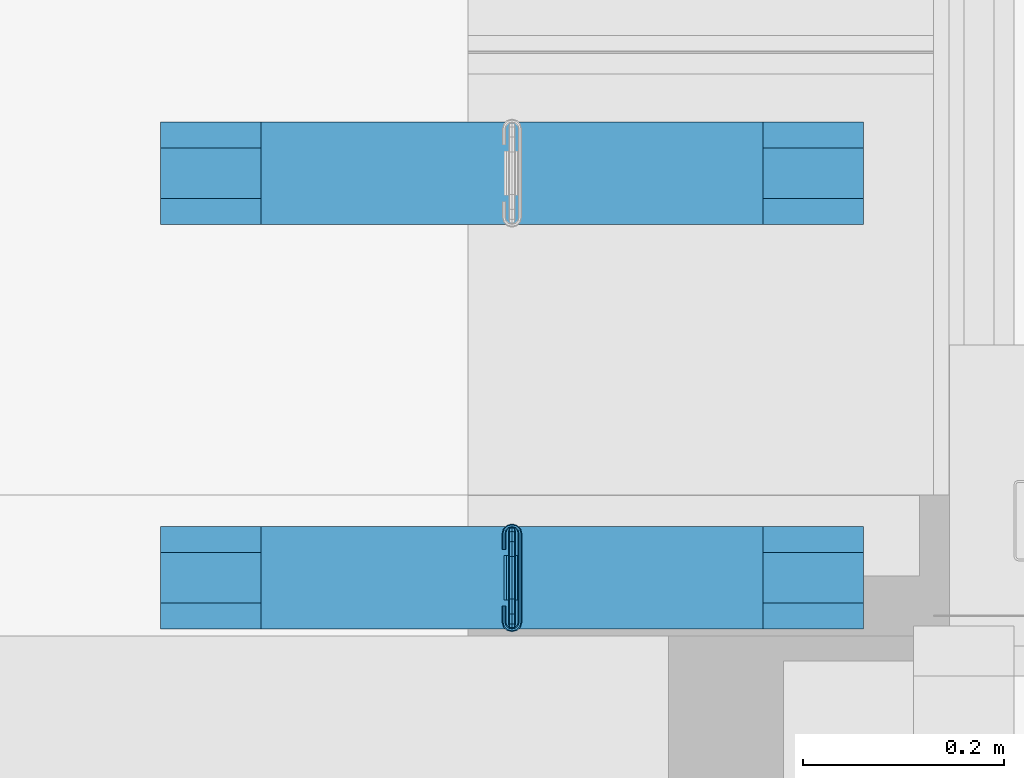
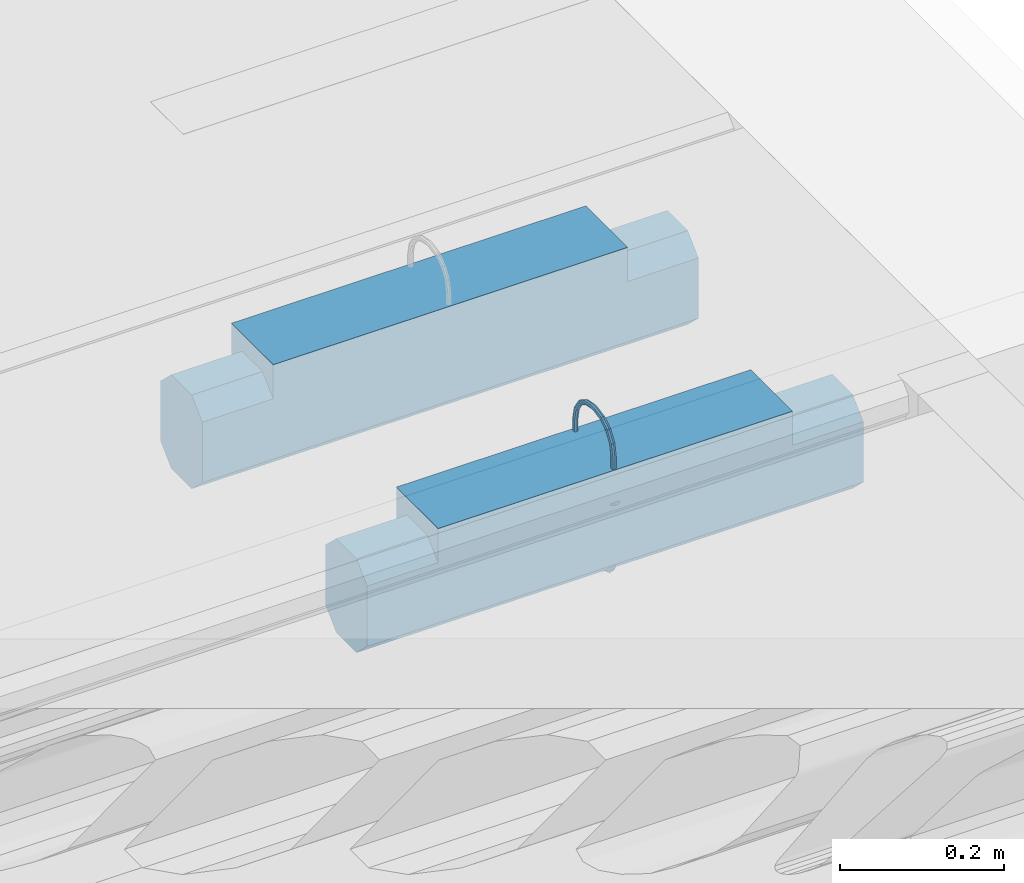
# One storey, part 187 of 230: 3 beams.
"""IFC4X3_ADD2 building model written with IfcOpenShell, lengths in millimetres."""

from ifc_helpers import new_model, si_unit, direction, origin_with_axes, place, context, subcontext, project, spatial, triangles, polygons, element, save


model = new_model("IFC4X3_ADD2")

# Units and contexts
model_context = context("Model", 3, precision=1e-05, world=origin_with_axes(), true_north=direction((0.0, 1.0)))
body_context = subcontext(model_context, "Body", "Model", "MODEL_VIEW")
ifc_project = project(units=[si_unit("LENGTHUNIT", "METRE", prefix="MILLI"), si_unit("AREAUNIT", "SQUARE_METRE"), si_unit("VOLUMEUNIT", "CUBIC_METRE"), si_unit("PLANEANGLEUNIT", "RADIAN"), si_unit("TIMEUNIT", "SECOND"), si_unit("MASSUNIT", "GRAM")], contexts=[model_context])

# Site, building, storey
site_placement = place(None, origin_with_axes())
site = spatial("IfcSite", under=ifc_project, at=site_placement, Name="Site", CompositionType="ELEMENT")
building_placement = place(site_placement, origin_with_axes())
building = spatial("IfcBuilding", under=site, at=building_placement, Name="IFC Building Story")
storey_placement = place(building_placement, origin_with_axes())
storey = spatial("IfcBuildingStorey", under=building, at=storey_placement, Name="ETAGE 00 (0)", Elevation=0.0)

# Beams
beam_1_placement = place(storey_placement, origin_with_axes())
element("IfcBeam", 1, at=beam_1_placement, inside=storey, Name="ES44", ObjectType="500*102", context=body_context, shape_type="Tessellation", body=[
    polygons([(47445.689, 509.0000185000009, 4199.9999879), (47445.689, 407.000018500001, 4199.9999879), (47945.689, 407.000018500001, 4199.9999879), (47945.689, 509.0000185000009, 4199.9999879), (47445.689, 509.0000185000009, 4148.9999909), (47445.689, 483.000018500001, 4173.9999909), (47445.689, 433.0000185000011, 4173.9999909), (47445.689, 407.000018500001, 4148.9999909), (47345.689, 407.000018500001, 4148.9999909), (47345.689, 407.000018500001, 4058.999990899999), (48045.689, 407.000018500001, 4058.999990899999), (48045.689, 407.000018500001, 4148.9999909), (47945.689, 407.000018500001, 4148.9999909), (47945.689, 433.000018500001, 4173.9999909), (47945.689, 483.0000185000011, 4173.9999909), (47945.689, 509.0000185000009, 4148.9999909), (48045.689, 509.0000185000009, 4148.9999909), (48045.689, 509.0000185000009, 4058.999990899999), (47345.689, 509.0000185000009, 4058.999990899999), (47345.689, 509.0000185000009, 4148.9999909), (47345.689, 483.000018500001, 4033.9999909), (47345.689, 433.000018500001, 4033.9999909), (47345.689, 433.000018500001, 4173.9999909), (47345.689, 483.000018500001, 4173.9999909), (48045.689, 483.000018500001, 4033.9999909), (48045.689, 483.000018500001, 4173.9999909), (48045.689, 433.000018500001, 4173.9999909), (48045.689, 433.000018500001, 4033.9999909)], [[[1, 2, 3, 4]], [[7, 8, 2]], [[2, 1, 6]], [[2, 6, 7]], [[1, 5, 6]], [[8, 9, 10]], [[13, 3, 2]], [[8, 10, 11]], [[8, 11, 13]], [[13, 2, 8]], [[11, 12, 13]], [[15, 16, 4]], [[4, 3, 14]], [[4, 14, 15]], [[3, 13, 14]], [[16, 17, 18]], [[5, 1, 4]], [[16, 18, 19]], [[16, 19, 5]], [[5, 4, 16]], [[19, 20, 5]], [[21, 22, 10]], [[21, 10, 9]], [[21, 9, 23]], [[21, 23, 24]], [[21, 24, 20]], [[21, 20, 19]], [[25, 18, 17]], [[25, 17, 26]], [[25, 26, 27]], [[25, 27, 12]], [[25, 12, 11]], [[25, 11, 28]], [[22, 21, 25, 28]], [[10, 22, 28, 11]], [[23, 9, 8, 7]], [[24, 23, 7, 6]], [[20, 24, 6, 5]], [[21, 19, 18, 25]], [[27, 26, 15, 14]], [[12, 27, 14, 13]], [[26, 17, 16, 15]]]),
])
beam_2_placement = place(storey_placement, origin_with_axes())
element("IfcBeam", 2, at=beam_2_placement, inside=storey, Name="LU2", ObjectType="D7", context=body_context, shape_type="Tessellation", body=[
    triangles([(47698.16297607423, 483.5000298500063, 4036.025157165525), (47698.16297607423, 480.0000254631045, 4036.025157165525), (47695.68870849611, 483.5000298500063, 4034.999929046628), (47695.68870849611, 480.0000254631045, 4034.999929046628), (47699.19082031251, 483.5000298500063, 4038.500006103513), (47699.19082031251, 480.0000254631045, 4038.500006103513), (47698.16297607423, 480.0000254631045, 4040.974855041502), (47698.16297607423, 483.5000298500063, 4040.974855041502), (47695.68870849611, 480.0000254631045, 4042.000083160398), (47695.68870849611, 483.5000298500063, 4042.000083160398), (47693.21444091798, 480.0000254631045, 4040.974855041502), (47693.21444091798, 483.5000298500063, 4040.974855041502), (47692.1912475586, 480.0000254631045, 4038.500006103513), (47692.1912475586, 483.5000298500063, 4038.500006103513), (47693.21444091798, 483.5000298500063, 4036.025157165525), (47693.21444091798, 480.0000254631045, 4036.025157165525), (47695.68870849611, 495.7500088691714, 4038.282286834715), (47693.21444091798, 495.2374674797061, 4039.170023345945), (47695.68870849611, 504.71763010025, 4047.250053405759), (47693.21444091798, 503.8298572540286, 4047.762522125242), (47698.16297607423, 503.8298572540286, 4047.762522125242), (47698.16297607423, 495.2374674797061, 4039.170023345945), (47699.19082031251, 501.6865651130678, 4048.999946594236), (47699.19082031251, 494.0000066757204, 4041.313497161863), (47698.16297607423, 492.7625822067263, 4043.456680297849), (47698.16297607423, 499.5432366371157, 4050.237371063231), (47695.68870849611, 492.2500044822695, 4044.34441680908), (47695.68870849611, 498.6554637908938, 4050.750130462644), (47693.21444091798, 499.5432366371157, 4050.237371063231), (47693.21444091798, 492.7625822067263, 4043.456680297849), (47692.1912475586, 501.6865651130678, 4048.999946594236), (47692.1912475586, 494.0000066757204, 4041.313497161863), (47693.21444091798, 506.974905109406, 4059.499887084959), (47692.1912475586, 504.500019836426, 4059.499887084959), (47695.68870849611, 508.000024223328, 4059.499887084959), (47698.16297607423, 506.974905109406, 4059.499887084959), (47699.19082031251, 504.500019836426, 4059.499887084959), (47698.16297607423, 502.0251345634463, 4059.499887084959), (47695.68870849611, 501.0000154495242, 4059.499887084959), (47693.21444091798, 502.0251345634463, 4059.499887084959), (47693.21444091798, 502.0251345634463, 4218.50006561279), (47692.1912475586, 504.500019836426, 4218.50006561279), (47693.21444091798, 498.9403664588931, 4234.008421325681), (47692.1912475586, 501.2268548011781, 4234.955456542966), (47693.21444091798, 490.1556192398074, 4247.155583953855), (47692.1912475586, 491.9056214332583, 4248.905477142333), (47693.21444091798, 493.6556236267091, 4250.65566101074), (47693.21444091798, 503.5133068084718, 4235.902491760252), (47695.68870849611, 494.3804703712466, 4251.38032608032), (47695.68870849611, 504.46041469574, 4236.294909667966), (47698.16297607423, 493.6556236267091, 4250.65566101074), (47698.16297607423, 503.5133068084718, 4235.902491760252), (47699.19082031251, 491.9056214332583, 4248.905477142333), (47699.19082031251, 501.2268548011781, 4234.955456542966), (47698.16297607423, 498.9403664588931, 4234.008421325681), (47698.16297607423, 490.1556192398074, 4247.155583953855), (47695.68870849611, 497.993258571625, 4233.616003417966), (47695.68870849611, 489.4307361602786, 4246.430628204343), (47695.68870849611, 476.6160023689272, 4254.993186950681), (47693.21444091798, 477.0083112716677, 4255.940222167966), (47692.1912475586, 477.9554191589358, 4258.226710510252), (47693.21444091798, 478.9024907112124, 4260.513198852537), (47695.68870849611, 479.2947996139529, 4261.460524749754), (47698.16297607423, 478.9024907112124, 4260.513198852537), (47699.19082031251, 477.9554191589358, 4258.226710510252), (47698.16297607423, 477.0083112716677, 4255.940222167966), (47698.16297607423, 461.50002822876, 4259.025208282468), (47695.68870849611, 461.50002822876, 4257.999980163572), (47693.21444091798, 461.50002822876, 4259.025208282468), (47692.1912475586, 461.50002822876, 4261.500057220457), (47693.21444091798, 461.50002822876, 4263.974906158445), (47695.68870849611, 461.50002822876, 4265.000134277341), (47698.16297607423, 461.50002822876, 4263.974906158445), (47699.19082031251, 461.50002822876, 4261.500057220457), (47699.19082031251, 454.5000194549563, 4261.500057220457), (47698.16297607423, 454.5000194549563, 4259.025208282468), (47699.19082031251, 438.0446285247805, 4258.226710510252), (47698.16297607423, 438.9917364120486, 4255.940222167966), (47699.19082031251, 424.094426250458, 4248.905477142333), (47698.16297607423, 425.8444284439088, 4247.155583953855), (47695.68870849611, 439.3840089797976, 4254.993186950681), (47695.68870849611, 426.5693115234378, 4246.430628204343), (47693.21444091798, 425.8444284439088, 4247.155583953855), (47693.21444091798, 438.9917364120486, 4255.940222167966), (47692.1912475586, 424.094426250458, 4248.905477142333), (47692.1912475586, 438.0446285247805, 4258.226710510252), (47693.21444091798, 422.344424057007, 4250.65566101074), (47693.21444091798, 437.0975206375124, 4260.513198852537), (47695.68870849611, 421.6195409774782, 4251.38032608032), (47695.68870849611, 436.7052480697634, 4261.460524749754), (47698.16297607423, 422.344424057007, 4250.65566101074), (47698.16297607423, 437.0975206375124, 4260.513198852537), (47699.19082031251, 414.7731928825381, 4234.955456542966), (47698.16297607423, 412.486704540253, 4235.902491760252), (47698.16297607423, 417.0596812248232, 4234.008421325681), (47695.68870849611, 418.0067891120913, 4233.616003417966), (47693.21444091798, 417.0596812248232, 4234.008421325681), (47692.1912475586, 414.7731928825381, 4234.955456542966), (47693.21444091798, 412.486704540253, 4235.902491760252), (47695.68870849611, 411.5396329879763, 4236.294909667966), (47698.16297607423, 409.0251425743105, 4218.50006561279), (47695.68870849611, 408.0000234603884, 4218.50006561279), (47699.19082031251, 411.5000278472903, 4218.50006561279), (47698.16297607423, 413.9748767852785, 4218.50006561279), (47695.68870849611, 415.0000322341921, 4218.50006561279), (47693.21444091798, 413.9748767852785, 4218.50006561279), (47692.1912475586, 411.5000278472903, 4218.50006561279), (47693.21444091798, 409.0251425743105, 4218.50006561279), (47695.68870849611, 408.0000234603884, 4059.499887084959), (47693.21444091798, 409.0251425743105, 4059.499887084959), (47695.68870849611, 411.2823812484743, 4047.250053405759), (47693.21444091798, 412.1701904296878, 4047.762522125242), (47695.68870849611, 420.2500024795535, 4038.282286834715), (47693.21444091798, 420.7625802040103, 4039.170023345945), (47698.16297607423, 420.7625802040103, 4039.170023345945), (47698.16297607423, 412.1701904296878, 4047.762522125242), (47699.19082031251, 422.0000046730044, 4041.313497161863), (47699.19082031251, 414.3134825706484, 4048.999946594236), (47698.16297607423, 416.4567747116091, 4050.237371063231), (47698.16297607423, 423.2374654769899, 4043.456680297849), (47695.68870849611, 417.3445838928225, 4050.750130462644), (47695.68870849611, 423.7500068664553, 4044.34441680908), (47693.21444091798, 423.2374654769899, 4043.456680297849), (47693.21444091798, 416.4567747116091, 4050.237371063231), (47692.1912475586, 422.0000046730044, 4041.313497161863), (47692.1912475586, 414.3134825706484, 4048.999946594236), (47693.21444091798, 432.50001783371, 4036.025157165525), (47692.1912475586, 432.50001783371, 4038.500006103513), (47695.68870849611, 432.50001783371, 4034.999929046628), (47698.16297607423, 432.50001783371, 4036.025157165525), (47699.19082031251, 432.50001783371, 4038.500006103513), (47698.16297607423, 432.50001783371, 4040.974855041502), (47695.68870849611, 432.50001783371, 4042.000083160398), (47693.21444091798, 432.50001783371, 4040.974855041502), (47693.21444091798, 436.0000222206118, 4040.974855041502), (47692.1912475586, 436.0000222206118, 4038.500006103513), (47695.68870849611, 436.0000222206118, 4042.000083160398), (47698.16297607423, 436.0000222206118, 4040.974855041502), (47699.19082031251, 436.0000222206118, 4038.500006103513), (47698.16297607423, 436.0000222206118, 4036.025157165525), (47695.68870849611, 436.0000222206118, 4034.999929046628), (47693.21444091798, 436.0000222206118, 4036.025157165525), (47703.68822021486, 436.0000222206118, 4038.500006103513), (47695.68870849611, 436.0000222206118, 4046.500099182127), (47690.03323974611, 436.0000222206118, 4044.156928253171), (47687.68919677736, 436.0000222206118, 4038.500006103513), (47701.34417724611, 436.0000222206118, 4044.156928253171), (47690.03323974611, 436.0000222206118, 4032.843083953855), (47695.68870849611, 436.0000222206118, 4030.4999130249), (47701.34417724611, 436.0000222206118, 4032.843083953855), (47701.34417724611, 480.0000254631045, 4032.843083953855), (47695.68870849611, 480.0000254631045, 4030.4999130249), (47703.68822021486, 480.0000254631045, 4038.500006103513), (47701.34417724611, 480.0000254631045, 4044.156928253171), (47695.68870849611, 480.0000254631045, 4046.500099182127), (47690.03323974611, 480.0000254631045, 4044.156928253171), (47687.68919677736, 480.0000254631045, 4038.500006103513), (47690.03323974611, 480.0000254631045, 4032.843083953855), (47692.1912475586, 411.5000278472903, 4059.499887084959), (47693.21444091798, 413.9748767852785, 4059.499887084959), (47695.68870849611, 415.0000322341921, 4059.499887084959), (47698.16297607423, 413.9748767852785, 4059.499887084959), (47699.19082031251, 411.5000278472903, 4059.499887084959), (47698.16297607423, 409.0251425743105, 4059.499887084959), (47698.16297607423, 454.5000194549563, 4263.974906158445), (47695.68870849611, 454.5000194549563, 4265.000134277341), (47693.21444091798, 454.5000194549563, 4263.974906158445), (47692.1912475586, 454.5000194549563, 4261.500057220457), (47693.21444091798, 454.5000194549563, 4259.025208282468), (47695.68870849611, 454.5000194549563, 4257.999980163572), (47695.68870849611, 501.0000154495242, 4218.50006561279), (47698.16297607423, 502.0251345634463, 4218.50006561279), (47699.19082031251, 504.500019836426, 4218.50006561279), (47698.16297607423, 506.974905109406, 4218.50006561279), (47695.68870849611, 508.000024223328, 4218.50006561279), (47693.21444091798, 506.974905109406, 4218.50006561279), (47689.58675537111, 502.0600161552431, 4149.999886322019), (47689.58675537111, 486.0000226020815, 4149.999886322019), (47688.63797607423, 502.0600161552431, 4148.354637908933), (47688.63797607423, 486.0000226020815, 4148.354637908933), (47690.38670654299, 505.03000202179, 4149.999886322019), (47689.56350097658, 505.505009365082, 4148.354637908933), (47692.08427734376, 508.026948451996, 4148.354637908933), (47692.5586669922, 507.2042152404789, 4149.999886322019), (47692.08427734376, 508.026948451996, 4151.645425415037), (47689.56350097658, 505.505009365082, 4151.645425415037), (47695.5305786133, 508.950002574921, 4151.645425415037), (47695.5305786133, 510.85003194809, 4151.645425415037), (47691.13549804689, 509.6723785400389, 4151.645425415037), (47686.74041748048, 413.9400315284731, 4151.645425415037), (47689.56350097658, 410.4950019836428, 4151.645425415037), (47688.63797607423, 413.9400315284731, 4151.645425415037), (47686.74041748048, 430.0000250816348, 4151.645425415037), (47687.91708984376, 409.5450236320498, 4151.645425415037), (47688.63797607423, 430.0000250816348, 4151.645425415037), (47691.13549804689, 406.327669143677, 4151.645425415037), (47695.5305786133, 407.0500087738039, 4151.645425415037), (47692.08427734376, 407.9730992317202, 4151.645425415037), (47695.5305786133, 405.1500157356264, 4151.645425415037), (47686.74041748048, 502.0600161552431, 4151.645425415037), (47687.91708984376, 506.455024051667, 4151.645425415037), (47686.74041748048, 486.0000226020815, 4151.645425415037), (47688.63797607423, 502.0600161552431, 4151.645425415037), (47688.63797607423, 486.0000226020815, 4151.645425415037), (47699.29313964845, 407.9730992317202, 4151.645425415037), (47700.24191894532, 406.327669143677, 4151.645425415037), (47703.46032714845, 409.5450236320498, 4151.645425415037), (47695.84683837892, 405.1500157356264, 4151.645425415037), (47695.84683837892, 407.0500087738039, 4151.645425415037), (47701.81391601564, 410.4950019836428, 4151.645425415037), (47704.63699951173, 413.9400315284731, 4151.645425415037), (47702.73944091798, 413.9400315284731, 4151.645425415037), (47702.73944091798, 502.0600161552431, 4151.645425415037), (47700.24191894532, 509.6723785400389, 4151.645425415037), (47699.29313964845, 508.026948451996, 4151.645425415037), (47703.46032714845, 506.455024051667, 4151.645425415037), (47695.84683837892, 510.85003194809, 4151.645425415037), (47695.84683837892, 508.950002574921, 4151.645425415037), (47704.63699951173, 502.0600161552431, 4151.645425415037), (47701.81391601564, 505.505009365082, 4151.645425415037), (47686.74041748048, 430.0000250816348, 4148.354637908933), (47688.63797607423, 430.0000250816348, 4148.354637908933), (47689.58675537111, 430.0000250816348, 4149.999886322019), (47685.7869873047, 430.0000250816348, 4149.999886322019), (47689.58675537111, 413.9400315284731, 4149.999886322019), (47688.63797607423, 413.9400315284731, 4148.354637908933), (47691.13549804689, 406.327669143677, 4148.354637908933), (47695.5305786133, 407.0500087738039, 4148.354637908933), (47695.5305786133, 405.1500157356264, 4148.354637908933), (47686.74041748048, 502.0600161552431, 4148.354637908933), (47686.74041748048, 486.0000226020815, 4148.354637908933), (47687.91708984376, 506.455024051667, 4148.354637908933), (47691.13549804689, 509.6723785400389, 4148.354637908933), (47695.5305786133, 508.950002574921, 4148.354637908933), (47695.5305786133, 510.85003194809, 4148.354637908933), (47686.74041748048, 413.9400315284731, 4148.354637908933), (47689.56350097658, 410.4950019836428, 4148.354637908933), (47687.91708984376, 409.5450236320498, 4148.354637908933), (47692.08427734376, 407.9730992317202, 4148.354637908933), (47699.29313964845, 508.026948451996, 4148.354637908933), (47700.24191894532, 509.6723785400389, 4148.354637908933), (47703.46032714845, 506.455024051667, 4148.354637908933), (47695.84683837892, 510.85003194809, 4148.354637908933), (47695.84683837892, 508.950002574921, 4148.354637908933), (47701.81391601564, 505.505009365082, 4148.354637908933), (47704.63699951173, 502.0600161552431, 4148.354637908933), (47702.73944091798, 502.0600161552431, 4148.354637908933), (47702.73944091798, 413.9400315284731, 4148.354637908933), (47700.24191894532, 406.327669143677, 4148.354637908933), (47699.29313964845, 407.9730992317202, 4148.354637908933), (47703.46032714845, 409.5450236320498, 4148.354637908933), (47695.84683837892, 405.1500157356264, 4148.354637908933), (47695.84683837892, 407.0500087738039, 4148.354637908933), (47704.63699951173, 413.9400315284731, 4148.354637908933), (47701.81391601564, 410.4950019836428, 4148.354637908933), (47685.7869873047, 413.9400315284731, 4149.999886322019), (47687.09388427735, 409.0700162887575, 4149.999886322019), (47690.66110839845, 405.5049359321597, 4149.999886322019), (47695.5305786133, 404.200001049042, 4149.999886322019), (47695.84683837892, 404.200001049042, 4149.999886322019), (47700.72095947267, 405.5049359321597, 4149.999886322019), (47704.28353271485, 409.0700162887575, 4149.999886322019), (47705.59042968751, 413.9400315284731, 4149.999886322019), (47705.59042968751, 502.0600161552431, 4149.999886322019), (47704.28353271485, 506.930031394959, 4149.999886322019), (47700.72095947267, 510.495111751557, 4149.999886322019), (47695.84683837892, 511.800010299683, 4149.999886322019), (47695.5305786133, 511.800010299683, 4149.999886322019), (47690.66110839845, 510.495111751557, 4149.999886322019), (47687.09388427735, 506.930031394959, 4149.999886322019), (47685.7869873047, 502.0600161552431, 4149.999886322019), (47685.7869873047, 486.0000226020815, 4149.999886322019), (47695.5305786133, 508.000024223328, 4149.999886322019), (47695.84683837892, 508.000024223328, 4149.999886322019), (47698.81875000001, 507.2042152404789, 4149.999886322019), (47700.99536132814, 505.03000202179, 4149.999886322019), (47701.79066162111, 502.0600161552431, 4149.999886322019), (47701.79066162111, 413.9400315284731, 4149.999886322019), (47700.99536132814, 410.970009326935, 4149.999886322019), (47698.81875000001, 408.7958324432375, 4149.999886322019), (47695.84683837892, 408.0000234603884, 4149.999886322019), (47695.5305786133, 408.0000234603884, 4149.999886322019), (47692.5586669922, 408.7958324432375, 4149.999886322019), (47690.38670654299, 410.970009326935, 4149.999886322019)], [[1, 2, 3], [4, 3, 2], [5, 6, 1], [2, 1, 6], [6, 5, 7], [8, 7, 5], [7, 8, 9], [10, 9, 8], [9, 10, 11], [12, 11, 10], [11, 12, 13], [14, 13, 12], [15, 16, 14], [13, 14, 16], [3, 4, 15], [16, 15, 4], [17, 3, 18], [15, 18, 3], [19, 17, 20], [18, 20, 17], [21, 22, 17], [17, 19, 21], [23, 24, 22], [22, 21, 23], [24, 23, 25], [26, 25, 23], [25, 26, 27], [28, 27, 26], [27, 28, 29], [29, 30, 27], [30, 29, 31], [31, 32, 30], [20, 18, 31], [32, 31, 18], [33, 20, 34], [31, 34, 20], [35, 19, 33], [20, 33, 19], [36, 21, 19], [19, 35, 36], [37, 23, 21], [21, 36, 37], [23, 37, 26], [38, 26, 37], [26, 38, 28], [39, 28, 38], [28, 39, 40], [40, 29, 28], [29, 40, 34], [34, 31, 29], [40, 41, 42], [42, 34, 40], [41, 43, 44], [44, 42, 41], [43, 45, 46], [46, 44, 43], [47, 48, 46], [44, 46, 48], [49, 50, 47], [48, 47, 50], [51, 52, 50], [50, 49, 51], [53, 54, 52], [52, 51, 53], [54, 53, 55], [56, 55, 53], [55, 56, 57], [58, 57, 56], [57, 58, 45], [45, 43, 57], [58, 59, 60], [60, 45, 58], [45, 60, 61], [61, 46, 45], [62, 47, 61], [46, 61, 47], [63, 49, 62], [47, 62, 49], [64, 51, 49], [49, 63, 64], [65, 53, 51], [51, 64, 65], [53, 65, 56], [66, 56, 65], [56, 66, 58], [59, 58, 66], [66, 67, 59], [68, 59, 67], [59, 68, 69], [69, 60, 59], [60, 69, 70], [70, 61, 60], [71, 62, 70], [61, 70, 62], [72, 63, 71], [62, 71, 63], [73, 64, 63], [63, 72, 73], [74, 65, 64], [64, 73, 74], [65, 74, 66], [67, 66, 74], [74, 75, 67], [76, 67, 75], [75, 77, 76], [78, 76, 77], [77, 79, 78], [80, 78, 79], [78, 80, 81], [82, 81, 80], [81, 82, 83], [83, 84, 81], [84, 83, 85], [85, 86, 84], [87, 88, 85], [86, 85, 88], [89, 90, 87], [88, 87, 90], [91, 92, 90], [90, 89, 91], [79, 77, 92], [92, 91, 79], [93, 79, 91], [91, 94, 93], [79, 93, 80], [95, 80, 93], [80, 95, 82], [96, 82, 95], [82, 96, 97], [97, 83, 82], [83, 97, 98], [98, 85, 83], [99, 87, 98], [85, 98, 87], [100, 89, 99], [87, 99, 89], [94, 91, 89], [89, 100, 94], [101, 94, 100], [100, 102, 101], [103, 93, 94], [94, 101, 103], [93, 103, 95], [104, 95, 103], [95, 104, 96], [105, 96, 104], [96, 105, 106], [106, 97, 96], [97, 106, 107], [107, 98, 97], [108, 99, 107], [98, 107, 99], [102, 100, 108], [99, 108, 100], [109, 102, 110], [108, 110, 102], [111, 109, 112], [110, 112, 109], [113, 111, 114], [112, 114, 111], [115, 116, 111], [111, 113, 115], [117, 118, 116], [116, 115, 117], [118, 117, 119], [120, 119, 117], [119, 120, 121], [122, 121, 120], [121, 122, 123], [123, 124, 121], [124, 123, 125], [125, 126, 124], [114, 112, 125], [126, 125, 112], [127, 114, 128], [125, 128, 114], [129, 113, 127], [114, 127, 113], [130, 115, 113], [113, 129, 130], [131, 117, 115], [115, 130, 131], [117, 131, 120], [132, 120, 131], [120, 132, 122], [133, 122, 132], [122, 133, 134], [134, 123, 122], [123, 134, 128], [128, 125, 123], [134, 135, 136], [136, 128, 134], [133, 137, 134], [135, 134, 137], [132, 138, 137], [137, 133, 132], [131, 139, 132], [138, 132, 139], [139, 131, 130], [130, 140, 139], [140, 130, 141], [129, 141, 130], [141, 129, 127], [127, 142, 141], [142, 127, 136], [128, 136, 127], [138, 139, 143], [135, 137, 144], [144, 145, 135], [146, 136, 135], [146, 135, 145], [147, 137, 138], [137, 147, 144], [138, 143, 147], [148, 136, 146], [142, 149, 141], [142, 136, 148], [148, 149, 142], [150, 143, 139], [139, 140, 150], [141, 150, 140], [150, 141, 149], [151, 150, 152], [149, 152, 150], [153, 143, 151], [150, 151, 143], [143, 153, 147], [154, 147, 153], [147, 154, 144], [155, 144, 154], [144, 155, 145], [156, 145, 155], [145, 156, 146], [157, 146, 156], [158, 148, 157], [146, 157, 148], [152, 149, 158], [148, 158, 149], [11, 13, 157], [7, 9, 155], [155, 154, 7], [153, 6, 7], [153, 7, 154], [156, 9, 11], [9, 156, 155], [11, 157, 156], [151, 6, 153], [2, 152, 4], [2, 6, 151], [151, 152, 2], [158, 157, 13], [13, 16, 158], [4, 158, 16], [158, 4, 152], [112, 110, 126], [159, 126, 110], [160, 124, 126], [126, 159, 160], [161, 121, 124], [124, 160, 161], [162, 119, 161], [121, 161, 119], [163, 118, 162], [119, 162, 118], [118, 163, 164], [164, 116, 118], [116, 164, 109], [109, 111, 116], [164, 101, 102], [102, 109, 164], [163, 103, 164], [101, 164, 103], [103, 163, 104], [162, 104, 163], [104, 162, 105], [161, 105, 162], [105, 161, 160], [160, 106, 105], [106, 160, 159], [159, 107, 106], [110, 108, 107], [107, 159, 110], [77, 75, 165], [165, 92, 77], [92, 165, 166], [166, 90, 92], [90, 166, 88], [167, 88, 166], [88, 167, 86], [168, 86, 167], [169, 84, 86], [86, 168, 169], [170, 81, 84], [84, 169, 170], [76, 78, 170], [81, 170, 78], [67, 76, 68], [170, 68, 76], [68, 170, 169], [169, 69, 68], [69, 169, 168], [168, 70, 69], [167, 71, 70], [70, 168, 167], [166, 72, 71], [71, 167, 166], [165, 73, 166], [72, 166, 73], [75, 74, 165], [73, 165, 74], [171, 57, 43], [43, 41, 171], [172, 55, 171], [57, 171, 55], [173, 54, 172], [55, 172, 54], [54, 173, 174], [174, 52, 54], [52, 174, 175], [175, 50, 52], [50, 175, 48], [176, 48, 175], [48, 176, 44], [42, 44, 176], [176, 33, 34], [34, 42, 176], [175, 35, 176], [33, 176, 35], [174, 36, 35], [35, 175, 174], [173, 37, 174], [36, 174, 37], [37, 173, 38], [172, 38, 173], [38, 172, 39], [171, 39, 172], [39, 171, 41], [41, 40, 39], [18, 15, 32], [14, 32, 15], [12, 30, 32], [32, 14, 12], [10, 27, 30], [30, 12, 10], [8, 25, 10], [27, 10, 25], [5, 24, 8], [25, 8, 24], [24, 5, 1], [1, 22, 24], [22, 1, 3], [3, 17, 22], [177, 178, 179], [180, 179, 178], [181, 177, 179], [179, 182, 181], [183, 184, 181], [181, 182, 183], [184, 185, 181], [186, 181, 185], [187, 188, 189], [190, 191, 192], [190, 192, 193], [190, 194, 191], [195, 193, 192], [196, 197, 198], [198, 191, 194], [199, 197, 196], [196, 198, 194], [200, 186, 201], [202, 203, 200], [204, 203, 202], [200, 203, 186], [185, 189, 201], [201, 186, 185], [189, 185, 187], [205, 206, 207], [197, 199, 208], [208, 209, 197], [209, 206, 205], [206, 209, 208], [210, 207, 211], [207, 210, 205], [212, 211, 213], [211, 212, 210], [214, 215, 216], [217, 188, 187], [187, 218, 217], [218, 215, 214], [214, 217, 218], [213, 219, 220], [219, 213, 211], [220, 216, 215], [216, 220, 219], [195, 221, 193], [222, 195, 223], [193, 221, 224], [195, 222, 221], [223, 225, 226], [226, 222, 223], [227, 228, 229], [230, 182, 179], [230, 179, 231], [230, 232, 182], [180, 231, 179], [233, 234, 183], [183, 182, 232], [235, 234, 233], [233, 183, 232], [236, 237, 238], [221, 226, 236], [222, 226, 221], [236, 226, 237], [239, 227, 238], [238, 237, 239], [227, 239, 228], [240, 241, 242], [243, 234, 235], [243, 244, 234], [244, 243, 241], [240, 244, 241], [245, 242, 246], [242, 245, 240], [247, 246, 248], [246, 247, 245], [249, 250, 251], [252, 229, 228], [228, 253, 252], [253, 250, 249], [249, 252, 253], [248, 254, 255], [254, 248, 246], [255, 251, 250], [251, 255, 254], [221, 236, 256], [256, 224, 221], [190, 193, 256], [224, 256, 193], [257, 194, 256], [190, 256, 194], [238, 257, 256], [256, 236, 238], [227, 258, 238], [257, 238, 258], [258, 196, 194], [194, 257, 258], [259, 199, 196], [196, 258, 259], [260, 208, 259], [199, 259, 208], [261, 206, 260], [208, 260, 206], [249, 261, 260], [260, 252, 249], [252, 260, 259], [259, 229, 252], [229, 259, 227], [258, 227, 259], [251, 262, 261], [261, 249, 251], [262, 207, 261], [206, 261, 207], [263, 211, 207], [207, 262, 263], [263, 264, 211], [219, 211, 264], [219, 264, 216], [265, 216, 264], [264, 246, 242], [242, 265, 264], [264, 263, 254], [254, 246, 264], [254, 263, 251], [262, 251, 263], [265, 242, 266], [241, 266, 242], [216, 265, 266], [266, 214, 216], [214, 266, 267], [267, 217, 214], [217, 267, 268], [268, 188, 217], [188, 268, 189], [269, 189, 268], [268, 235, 233], [233, 269, 268], [267, 243, 268], [235, 268, 243], [266, 241, 267], [243, 267, 241], [269, 233, 232], [232, 270, 269], [189, 269, 201], [270, 201, 269], [201, 270, 271], [271, 200, 201], [202, 200, 272], [271, 272, 200], [202, 180, 204], [231, 202, 272], [204, 180, 178], [202, 231, 180], [230, 231, 271], [272, 271, 231], [270, 232, 271], [230, 271, 232], [178, 177, 203], [203, 204, 178], [177, 181, 203], [186, 203, 181], [234, 273, 184], [184, 183, 234], [273, 187, 184], [185, 184, 187], [274, 218, 273], [187, 273, 218], [275, 215, 218], [218, 274, 275], [276, 220, 215], [215, 275, 276], [213, 220, 276], [276, 277, 213], [212, 213, 277], [277, 278, 212], [210, 212, 279], [278, 279, 212], [210, 279, 205], [280, 205, 279], [205, 280, 209], [281, 209, 280], [209, 281, 197], [282, 197, 281], [197, 282, 283], [283, 198, 197], [198, 283, 284], [284, 191, 198], [284, 225, 192], [192, 191, 284], [225, 223, 192], [195, 192, 223], [225, 284, 226], [237, 226, 284], [283, 239, 284], [237, 284, 239], [282, 228, 283], [239, 283, 228], [281, 253, 228], [228, 282, 281], [280, 250, 253], [253, 281, 280], [279, 255, 250], [250, 280, 279], [248, 255, 279], [279, 278, 248], [247, 248, 277], [278, 277, 248], [245, 247, 276], [277, 276, 247], [245, 276, 240], [275, 240, 276], [240, 275, 244], [274, 244, 275], [244, 274, 273], [273, 234, 244]]),
])
beam_3_placement = place(storey_placement, origin_with_axes())
element("IfcBeam", 3, at=beam_3_placement, inside=storey, Name="ES44", ObjectType="500*102", context=body_context, shape_type="Tessellation", body=[
    polygons([(47445.689, 912.000018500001, 4199.9999879), (47445.689, 810.000018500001, 4199.9999879), (47945.689, 810.000018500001, 4199.9999879), (47945.689, 912.000018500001, 4199.9999879), (47445.689, 912.000018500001, 4148.999990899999), (47445.689, 886.0000185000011, 4173.9999909), (47445.689, 836.000018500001, 4173.9999909), (47445.689, 810.000018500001, 4148.9999909), (47345.689, 810.000018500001, 4148.9999909), (47345.689, 810.000018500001, 4058.999990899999), (48045.689, 810.000018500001, 4058.999990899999), (48045.689, 810.000018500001, 4148.9999909), (47945.689, 810.000018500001, 4148.9999909), (47945.689, 836.000018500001, 4173.9999909), (47945.689, 886.0000185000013, 4173.9999909), (47945.689, 912.000018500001, 4148.999990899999), (48045.689, 912.000018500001, 4148.9999909), (48045.689, 912.000018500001, 4058.999990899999), (47345.689, 912.000018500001, 4058.999990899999), (47345.689, 912.000018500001, 4148.9999909), (47345.689, 886.0000185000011, 4033.9999909), (47345.689, 836.000018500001, 4033.9999909), (47345.689, 836.000018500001, 4173.9999909), (47345.689, 886.0000185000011, 4173.9999909), (48045.689, 886.0000185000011, 4033.9999909), (48045.689, 886.0000185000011, 4173.9999909), (48045.689, 836.000018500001, 4173.9999909), (48045.689, 836.000018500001, 4033.9999909)], [[[1, 2, 3, 4]], [[7, 8, 2]], [[2, 1, 6]], [[2, 6, 7]], [[1, 5, 6]], [[8, 9, 10]], [[13, 3, 2]], [[8, 10, 11]], [[8, 11, 13]], [[13, 2, 8]], [[11, 12, 13]], [[15, 16, 4]], [[4, 3, 14]], [[4, 14, 15]], [[3, 13, 14]], [[16, 17, 18]], [[5, 1, 4]], [[16, 18, 19]], [[16, 19, 5]], [[5, 4, 16]], [[19, 20, 5]], [[21, 22, 10]], [[21, 10, 9]], [[21, 9, 23]], [[21, 23, 24]], [[21, 24, 20]], [[21, 20, 19]], [[25, 18, 17]], [[25, 17, 26]], [[25, 26, 27]], [[25, 27, 12]], [[25, 12, 11]], [[25, 11, 28]], [[22, 21, 25, 28]], [[10, 22, 28, 11]], [[23, 9, 8, 7]], [[24, 23, 7, 6]], [[20, 24, 6, 5]], [[21, 19, 18, 25]], [[27, 26, 15, 14]], [[26, 17, 16, 15]], [[12, 27, 14, 13]]]),
])

save(model, "model.ifc")
